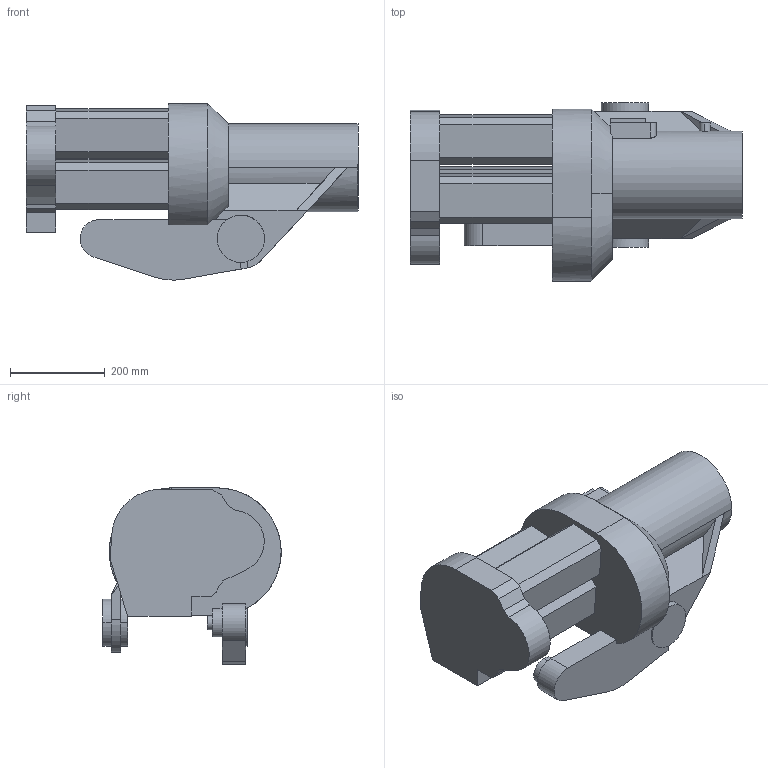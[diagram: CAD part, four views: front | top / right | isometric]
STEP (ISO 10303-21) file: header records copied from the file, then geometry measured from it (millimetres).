
FILE_DESCRIPTION (( 'STEP AP214' ), '1' );
FILE_NAME ('IRB4400_60-195_IRC5_rev02_LINK03_CAD.STEP', '2016-11-03T06:48:52', ( 'ABB' ), ( 'ABB' ), 'SwSTEP 2.0', 'SolidWorks 2014', '' );
FILE_SCHEMA (( 'AUTOMOTIVE_DESIGN' ));
Length unit declared in the file: millimetre
Products named in the file (1): IRB4400_60-195_IRC5_rev02_LINK03_CAD
Bounding box: 701.5 x 376.66 x 372.64 mm (x, y, z)
Volume: 31451772.1 mm3; surface area: 1083621.8 mm2
Topology: 1 solids, 1 shells, 140 faces, 395 edges, 262 vertices
Faces by surface type: plane 88, cylinder 39, bspline 7, cone 6
Entity records: 5908 total; most frequent: CARTESIAN_POINT 2276, ORIENTED_EDGE 778, DIRECTION 655, EDGE_CURVE 389, VERTEX_POINT 262, VECTOR 249, LINE 249, AXIS2_PLACEMENT_3D 203
